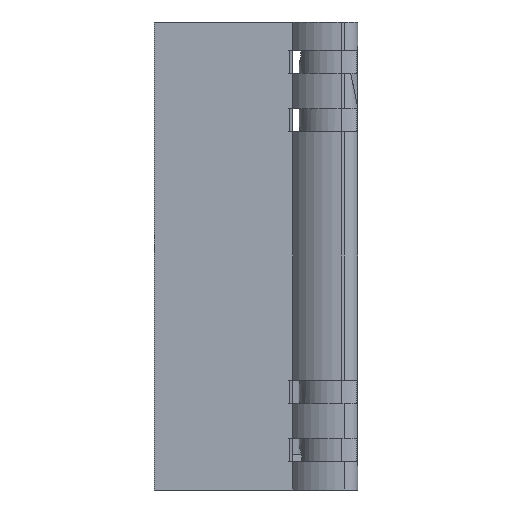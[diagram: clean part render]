
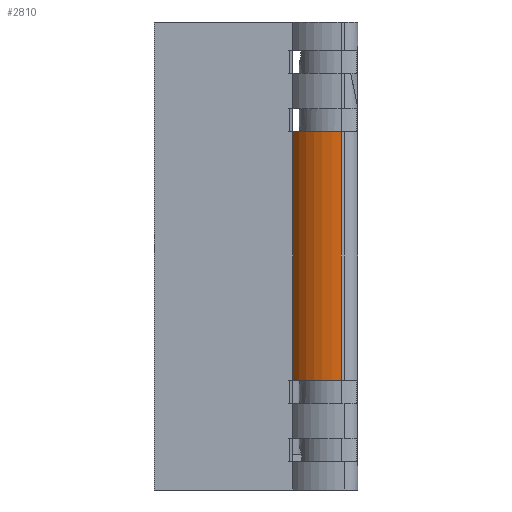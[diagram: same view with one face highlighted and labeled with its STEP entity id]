
A CAD part, left-side view. The second image highlights one B-rep face of the part: STEP entity #2810.
In plain terms, the highlighted cylindrical face has radius 12.383 mm (diameter 24.765 mm), a partial arc.
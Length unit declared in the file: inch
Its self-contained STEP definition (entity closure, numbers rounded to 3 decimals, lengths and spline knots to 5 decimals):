
#60 = EDGE_CURVE ( 'NONE', #5280, #13462, #9849, .T. ) ;
#106 = DIRECTION ( 'NONE',  ( 0., 0., -1. ) ) ;
#748 = CARTESIAN_POINT ( 'NONE',  ( -0.25842, 0.41337, 3.06 ) ) ;
#1328 = CARTESIAN_POINT ( 'NONE',  ( -0.25842, 0.41337, 3.06 ) ) ;
#1403 = CARTESIAN_POINT ( 'NONE',  ( 0., 0., 0.94 ) ) ;
#1594 = AXIS2_PLACEMENT_3D ( 'NONE', #1403, #8692, #2450 ) ;
#1977 = ORIENTED_EDGE ( 'NONE', *, *, #60, .F. ) ;
#2002 = EDGE_LOOP ( 'NONE', ( #8075, #9939, #12774, #1977 ) ) ;
#2260 = AXIS2_PLACEMENT_3D ( 'NONE', #11824, #12883, #9742 ) ;
#2450 = DIRECTION ( 'NONE',  ( -1., 0., 0. ) ) ;
#2810 = ADVANCED_FACE ( 'NONE', ( #12194 ), #3901, .T. ) ;
#3397 = EDGE_CURVE ( 'NONE', #5101, #12898, #11535, .T. ) ;
#3901 = CYLINDRICAL_SURFACE ( 'NONE', #2260, 0.4875 ) ;
#4098 = DIRECTION ( 'NONE',  ( 0., 0., -1. ) ) ;
#4775 = CARTESIAN_POINT ( 'NONE',  ( -0.4875, 0., 3.06 ) ) ;
#5101 = VERTEX_POINT ( 'NONE', #4775 ) ;
#5280 = VERTEX_POINT ( 'NONE', #6238 ) ;
#5902 = AXIS2_PLACEMENT_3D ( 'NONE', #6327, #106, #7382 ) ;
#5984 = VECTOR ( 'NONE', #11139, 39.37008 ) ;
#6220 = EDGE_CURVE ( 'NONE', #12898, #13462, #11518, .T. ) ;
#6238 = CARTESIAN_POINT ( 'NONE',  ( -0.4875, 0., 0.94 ) ) ;
#6327 = CARTESIAN_POINT ( 'NONE',  ( 0., 0., 3.06 ) ) ;
#7382 = DIRECTION ( 'NONE',  ( -1., 0., 0. ) ) ;
#8075 = ORIENTED_EDGE ( 'NONE', *, *, #9239, .F. ) ;
#8692 = DIRECTION ( 'NONE',  ( 0., 0., -1. ) ) ;
#9239 = EDGE_CURVE ( 'NONE', #5101, #5280, #10415, .T. ) ;
#9290 = CARTESIAN_POINT ( 'NONE',  ( -0.4875, 0., 3.06 ) ) ;
#9742 = DIRECTION ( 'NONE',  ( -1., 0., 0. ) ) ;
#9849 = CIRCLE ( 'NONE', #1594, 0.4875 ) ;
#9939 = ORIENTED_EDGE ( 'NONE', *, *, #3397, .T. ) ;
#10415 = LINE ( 'NONE', #9290, #12524 ) ;
#11139 = DIRECTION ( 'NONE',  ( 0., 0., -1. ) ) ;
#11518 = LINE ( 'NONE', #748, #5984 ) ;
#11535 = CIRCLE ( 'NONE', #5902, 0.4875 ) ;
#11754 = CARTESIAN_POINT ( 'NONE',  ( -0.25842, 0.41337, 0.94 ) ) ;
#11824 = CARTESIAN_POINT ( 'NONE',  ( 0., 0., 3.06 ) ) ;
#12194 = FACE_OUTER_BOUND ( 'NONE', #2002, .T. ) ;
#12524 = VECTOR ( 'NONE', #4098, 39.37008 ) ;
#12774 = ORIENTED_EDGE ( 'NONE', *, *, #6220, .T. ) ;
#12883 = DIRECTION ( 'NONE',  ( 0., 0., -1. ) ) ;
#12898 = VERTEX_POINT ( 'NONE', #1328 ) ;
#13462 = VERTEX_POINT ( 'NONE', #11754 ) ;
